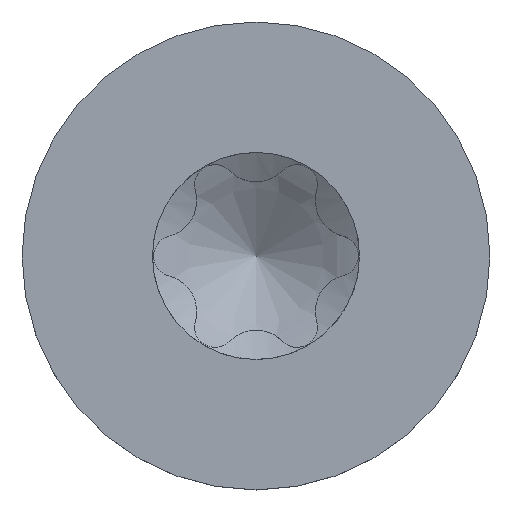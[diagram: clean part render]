
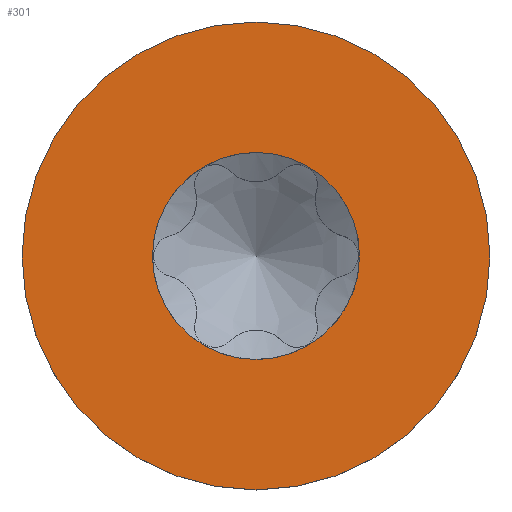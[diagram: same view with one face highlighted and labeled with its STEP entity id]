
A CAD part, top view. The second image highlights one B-rep face of the part: STEP entity #301.
In plain terms, the highlighted planar face has unit normal (0, 0, 1).
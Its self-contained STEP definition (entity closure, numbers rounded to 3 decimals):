
#257=PLANE('',#1579);
#264=FACE_BOUND('',#489,.T.);
#265=FACE_BOUND('',#490,.T.);
#301=ADVANCED_FACE('',(#264,#265),#257,.F.);
#489=EDGE_LOOP('',(#784));
#490=EDGE_LOOP('',(#785));
#784=ORIENTED_EDGE('',*,*,#1379,.F.);
#785=ORIENTED_EDGE('',*,*,#1380,.F.);
#1231=VERTEX_POINT('',#3789);
#1232=VERTEX_POINT('',#3791);
#1379=EDGE_CURVE('',#1231,#1231,#1559,.T.);
#1380=EDGE_CURVE('',#1232,#1232,#1560,.T.);
#1559=CIRCLE('',#1577,0.885);
#1560=CIRCLE('',#1578,2.);
#1577=AXIS2_PLACEMENT_3D('',#3788,#1628,#1629);
#1578=AXIS2_PLACEMENT_3D('',#3790,#1630,#1631);
#1579=AXIS2_PLACEMENT_3D('',#3792,#1632,#1633);
#1628=DIRECTION('',(0.,0.,1.));
#1629=DIRECTION('',(-1.,0.,0.));
#1630=DIRECTION('',(0.,0.,-1.));
#1631=DIRECTION('',(-1.,0.,0.));
#1632=DIRECTION('',(0.,0.,-1.));
#1633=DIRECTION('',(-1.,0.,0.));
#3788=CARTESIAN_POINT('',(0.,0.,1.56));
#3789=CARTESIAN_POINT('',(-0.885,0.,1.56));
#3790=CARTESIAN_POINT('',(0.,0.,1.56));
#3791=CARTESIAN_POINT('',(-2.,0.,1.56));
#3792=CARTESIAN_POINT('',(0.,0.,1.56));
